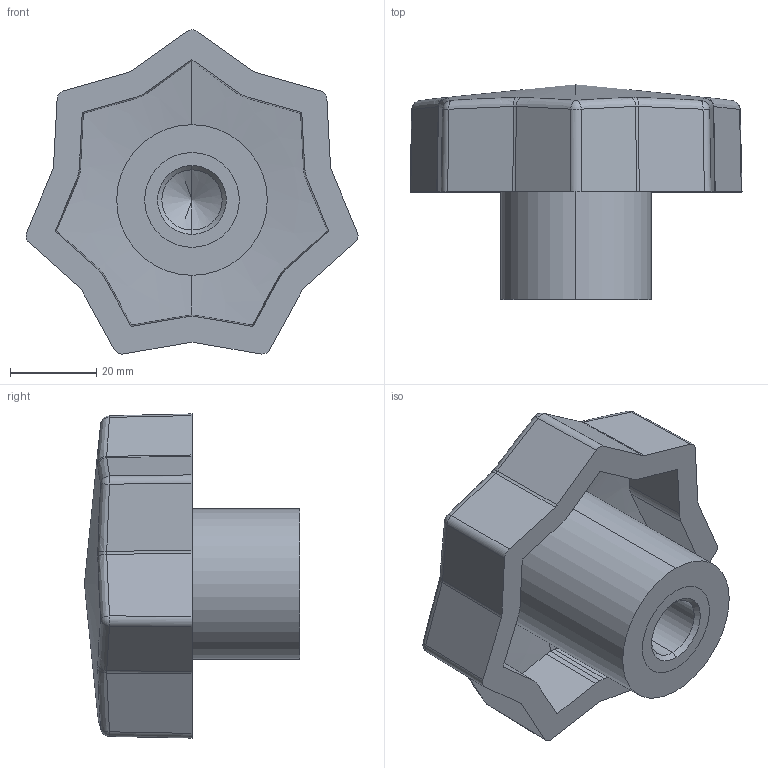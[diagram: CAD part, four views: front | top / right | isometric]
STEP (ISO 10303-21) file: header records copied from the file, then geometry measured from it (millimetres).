
FILE_DESCRIPTION (( 'STEP AP203' ), '1' );
FILE_NAME ('AP-1020-80-M16.STEP', '2015-11-23T10:25:21', ( '' ), ( '' ), 'SwSTEP 2.0', 'SolidWorks 2014', '' );
FILE_SCHEMA (( 'CONFIG_CONTROL_DESIGN' ));
Length unit declared in the file: millimetre
Products named in the file (1): AP-1020-80-M16
Bounding box: 77.16 x 50 x 75.33 mm (x, y, z)
Surface area: 31285.9 mm2 (no closed solid volume)
Topology: 0 solids, 3 shells, 124 faces, 292 edges, 178 vertices
Faces by surface type: cylinder 48, plane 40, bspline 21, cone 8, sphere 7
Entity records: 3764 total; most frequent: CARTESIAN_POINT 1098, ORIENTED_EDGE 574, DIRECTION 488, EDGE_CURVE 288, AXIS2_PLACEMENT_3D 188, VERTEX_POINT 178, EDGE_LOOP 133, FACE_OUTER_BOUND 124
